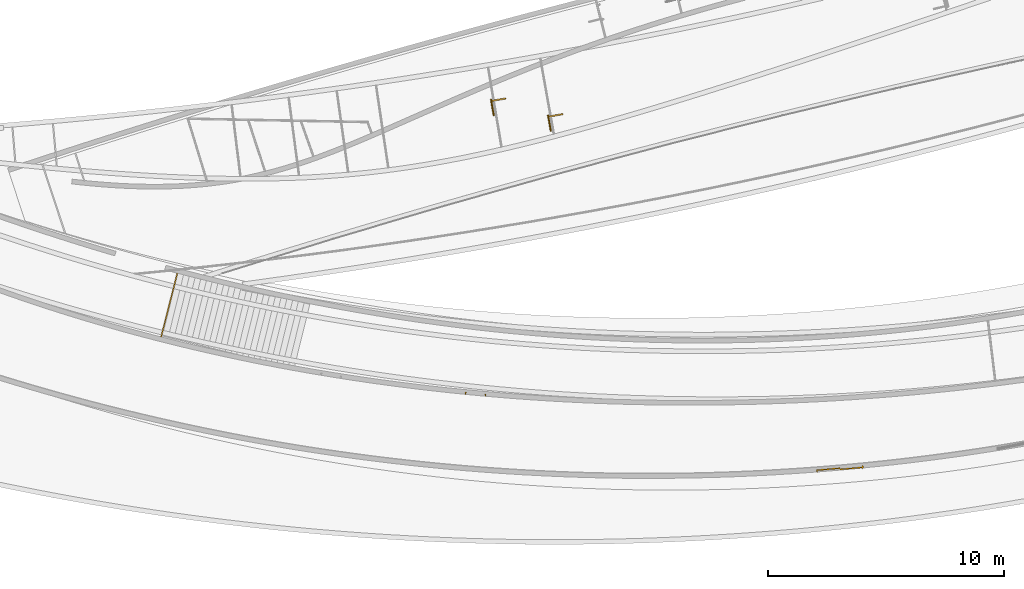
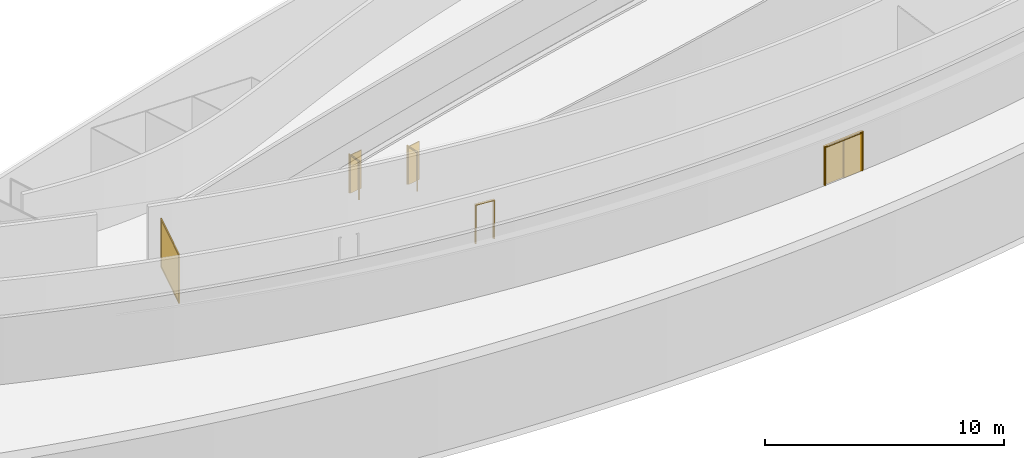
# Not in any storey, part 11 of 16: 4 doors, 1 curtain wall.
"""IFC2X3 model written with IfcOpenShell, lengths in millimetres."""

from ifc_helpers import new_model, entity, si_unit, converted_unit, direction, frame, origin_with_axes, place, context, project, spatial, open_shell, faceted_brep, surface_model, source, transform, mapped, type_object, element, save


model = new_model("IFC2X3")

# Units and contexts
model_context = context("Model", 3, precision=1.0, world=origin_with_axes(), true_north=direction((0.0, 1.0)))
ifc_project = project(units=[converted_unit("PLANEANGLEUNIT", "DEGREE", entity("IfcRatioMeasure", 0.017453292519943), si_unit("PLANEANGLEUNIT", "RADIAN"), dimensions=[0, 0, 0, 0, 0, 0, 0]), si_unit("LENGTHUNIT", "METRE", prefix="MILLI")], contexts=[model_context])

# Site
site_placement = place(None, origin_with_axes())
site = spatial("IfcSite", under=ifc_project, at=site_placement, Name="Site", CompositionType="ELEMENT")

# Door
door_style_1 = type_object("IfcDoorStyle", Name="HOKI entrance", ConstructionType="NOTDEFINED", OperationType="DOUBLE_DOOR_SLIDING", ParameterTakesPrecedence=True, Sizeable=False)
shared_shape_1 = source(origin_with_axes(), model_context, "Body", "Brep", [
    faceted_brep([(-950.0, -50.0, 1950.0), (-950.0, 50.0, 1950.0), (-1.819e-12, 50.0, 1950.0), (950.0, 50.0, 1950.0), (950.0, -50.0, 1950.0), (9.09e-13, -50.0, 1950.0), (950.0, -50.0, -1.819e-12), (1000.0, -50.0, -1.819e-12), (1000.0, -50.0, 1000.0), (1000.0, -50.0, 2000.0), (0.0, -50.0, 2000.0), (-1000.0, -50.0, 2000.0), (-1000.0, -50.0, 1000.0), (-1000.0, -50.0, -1.819e-12), (-950.0, -50.0, -1.819e-12), (-950.0, -50.0, 975.0), (-950.0, -50.0, 1950.0), (9.09e-13, -50.0, 1950.0), (950.0, -50.0, 1950.0), (950.0, -50.0, 975.0), (950.0, -50.0, 1950.0), (950.0, 50.0, 1950.0), (950.0, 50.0, 975.0), (950.0, 50.0, -1.819e-12), (950.0, 2.728e-12, -1.819e-12), (950.0, -50.0, -1.819e-12), (950.0, -50.0, 975.0), (1000.0, 50.0, -1.819e-12), (950.0, 50.0, -1.819e-12), (950.0, 50.0, 975.0), (950.0, 50.0, 1950.0), (-1.819e-12, 50.0, 1950.0), (-950.0, 50.0, 1950.0), (-950.0, 50.0, 975.0), (-950.0, 50.0, -1.819e-12), (-1000.0, 50.0, -1.819e-12), (-1000.0, 50.0, 1000.0), (-1000.0, 50.0, 2000.0), (0.0, 50.0, 2000.0), (1000.0, 50.0, 2000.0), (1000.0, 50.0, 1000.0), (1000.0, -50.0, 1000.0), (1000.0, -50.0, -1.819e-12), (1000.0, 0.0, -1.819e-12), (1000.0, 50.0, -1.819e-12), (1000.0, 50.0, 1000.0), (1000.0, 50.0, 2000.0), (1000.0, -50.0, 2000.0), (1000.0, -50.0, 2000.0), (1000.0, 50.0, 2000.0), (0.0, 50.0, 2000.0), (-1000.0, 50.0, 2000.0), (-1000.0, -50.0, 2000.0), (0.0, -50.0, 2000.0), (-950.0, -50.0, 975.0), (-950.0, -50.0, -1.819e-12), (-950.0, 9.09e-13, -1.819e-12), (-950.0, 50.0, -1.819e-12), (-950.0, 50.0, 975.0), (-950.0, 50.0, 1950.0), (-950.0, -50.0, 1950.0), (-1000.0, -50.0, 2000.0), (-1000.0, 50.0, 2000.0), (-1000.0, 50.0, 1000.0), (-1000.0, 50.0, -1.819e-12), (-1000.0, 1.819e-12, -1.819e-12), (-1000.0, -50.0, -1.819e-12), (-1000.0, -50.0, 1000.0), (-950.0, -50.0, -1.819e-12), (-1000.0, -50.0, -1.819e-12), (-1000.0, 1.819e-12, -1.819e-12), (-1000.0, 50.0, -1.819e-12), (-950.0, 50.0, -1.819e-12), (-950.0, 9.09e-13, -1.819e-12), (1000.0, -50.0, -1.819e-12), (950.0, -50.0, -1.819e-12), (950.0, 2.728e-12, -1.819e-12), (950.0, 50.0, -1.819e-12), (1000.0, 50.0, -1.819e-12), (1000.0, 0.0, -1.819e-12)], [[[0, 1, 2, 3, 4, 5]], [[6, 7, 8, 9, 10, 11, 12, 13, 14, 15, 16, 17, 18, 19]], [[20, 21, 22, 23, 24, 25, 26]], [[27, 28, 29, 30, 31, 32, 33, 34, 35, 36, 37, 38, 39, 40]], [[41, 42, 43, 44, 45, 46, 47]], [[48, 49, 50, 51, 52, 53]], [[54, 55, 56, 57, 58, 59, 60]], [[61, 62, 63, 64, 65, 66, 67]], [[68, 69, 70, 71, 72, 73]], [[74, 75, 76, 77, 78, 79]]]),
    faceted_brep([(-950.0, 1.819e-12, 1950.0), (-950.0, 50.0, 1950.0), (-950.0, 50.0, 975.0), (-950.0, 50.0, -1.819e-12), (-950.0, 1.819e-12, -1.819e-12), (-950.0, 1.819e-12, 975.0), (-950.0, 50.0, 975.0), (-950.0, 50.0, 1950.0), (-475.0, 50.0, 1950.0), (0.0, 50.0, 1950.0), (0.0, 50.0, 975.0), (0.0, 50.0, -1.819e-12), (-475.0, 50.0, -1.819e-12), (-950.0, 50.0, -1.819e-12), (-950.0, 1.819e-12, -1.819e-12), (-950.0, 50.0, -1.819e-12), (-475.0, 50.0, -1.819e-12), (0.0, 50.0, -1.819e-12), (0.0, 0.0, -1.819e-12), (-475.0, 9.09e-13, -1.819e-12), (0.0, 0.0, 975.0), (0.0, 0.0, 1950.0), (-475.0, 9.09e-13, 1950.0), (-950.0, 1.819e-12, 1950.0), (-950.0, 1.819e-12, 975.0), (-950.0, 1.819e-12, -1.819e-12), (-475.0, 9.09e-13, -1.819e-12), (0.0, 0.0, -1.819e-12), (0.0, 0.0, -1.819e-12), (0.0, 50.0, -1.819e-12), (0.0, 50.0, 975.0), (0.0, 50.0, 1950.0), (0.0, 0.0, 1950.0), (0.0, 0.0, 975.0), (0.0, 0.0, 1950.0), (0.0, 50.0, 1950.0), (-475.0, 50.0, 1950.0), (-950.0, 50.0, 1950.0), (-950.0, 1.819e-12, 1950.0), (-475.0, 9.09e-13, 1950.0)], [[[0, 1, 2, 3, 4, 5]], [[6, 7, 8, 9, 10, 11, 12, 13]], [[14, 15, 16, 17, 18, 19]], [[20, 21, 22, 23, 24, 25, 26, 27]], [[28, 29, 30, 31, 32, 33]], [[34, 35, 36, 37, 38, 39]]]),
    faceted_brep([(930.0, -80.0, -1.819e-12), (950.0, -80.0, -1.819e-12), (950.0, -80.0, 975.0), (950.0, -80.0, 1950.0), (0.0, -80.0, 1950.0), (-950.0, -80.0, 1950.0), (-950.0, -80.0, 975.0), (-950.0, -80.0, -1.819e-12), (-930.0, -80.0, -1.819e-12), (-930.0, -80.0, 965.0), (-930.0, -80.0, 1930.0), (0.0, -80.0, 1930.0), (930.0, -80.0, 1930.0), (930.0, -80.0, 965.0), (-930.0, -50.0, -1.819e-12), (-930.0, -50.0, 965.0), (-930.0, -50.0, 1930.0), (-930.0, -80.0, 1930.0), (-930.0, -80.0, 965.0), (-930.0, -80.0, -1.819e-12), (-930.0, -65.0, -1.819e-12), (-950.0, -80.0, 1950.0), (-950.0, -50.0, 1950.0), (-950.0, -50.0, 975.0), (-950.0, -50.0, -1.819e-12), (-950.0, -65.0, -1.819e-12), (-950.0, -80.0, -1.819e-12), (-950.0, -80.0, 975.0), (950.0, -80.0, 1950.0), (950.0, -50.0, 1950.0), (0.0, -50.0, 1950.0), (-950.0, -50.0, 1950.0), (-950.0, -80.0, 1950.0), (0.0, -80.0, 1950.0), (930.0, -80.0, 1930.0), (930.0, -50.0, 1930.0), (930.0, -50.0, 965.0), (930.0, -50.0, -1.819e-12), (930.0, -65.0, -1.819e-12), (930.0, -80.0, -1.819e-12), (930.0, -80.0, 965.0), (-930.0, -80.0, 1930.0), (-930.0, -50.0, 1930.0), (-9.09e-13, -50.0, 1930.0), (930.0, -50.0, 1930.0), (930.0, -80.0, 1930.0), (0.0, -80.0, 1930.0), (-950.0, -50.0, -1.819e-12), (-930.0, -50.0, -1.819e-12), (-930.0, -65.0, -1.819e-12), (-930.0, -80.0, -1.819e-12), (-950.0, -80.0, -1.819e-12), (-950.0, -65.0, -1.819e-12), (950.0, -50.0, -1.819e-12), (930.0, -50.0, -1.819e-12), (930.0, -50.0, 965.0), (930.0, -50.0, 1930.0), (-9.09e-13, -50.0, 1930.0), (-930.0, -50.0, 1930.0), (-930.0, -50.0, 965.0), (-930.0, -50.0, -1.819e-12), (-950.0, -50.0, -1.819e-12), (-950.0, -50.0, 975.0), (-950.0, -50.0, 1950.0), (0.0, -50.0, 1950.0), (950.0, -50.0, 1950.0), (950.0, -50.0, 975.0), (950.0, -50.0, -1.819e-12), (950.0, -50.0, 975.0), (950.0, -50.0, 1950.0), (950.0, -80.0, 1950.0), (950.0, -80.0, 975.0), (950.0, -80.0, -1.819e-12), (950.0, -65.0, -1.819e-12), (930.0, -50.0, -1.819e-12), (950.0, -50.0, -1.819e-12), (950.0, -65.0, -1.819e-12), (950.0, -80.0, -1.819e-12), (930.0, -80.0, -1.819e-12), (930.0, -65.0, -1.819e-12)], [[[0, 1, 2, 3, 4, 5, 6, 7, 8, 9, 10, 11, 12, 13]], [[14, 15, 16, 17, 18, 19, 20]], [[21, 22, 23, 24, 25, 26, 27]], [[28, 29, 30, 31, 32, 33]], [[34, 35, 36, 37, 38, 39, 40]], [[41, 42, 43, 44, 45, 46]], [[47, 48, 49, 50, 51, 52]], [[53, 54, 55, 56, 57, 58, 59, 60, 61, 62, 63, 64, 65, 66]], [[67, 68, 69, 70, 71, 72, 73]], [[74, 75, 76, 77, 78, 79]]]),
    faceted_brep([(950.0, -50.0, 1950.0), (950.0, 1.819e-12, 1950.0), (475.0, 9.09e-13, 1950.0), (0.0, 0.0, 1950.0), (0.0, -50.0, 1950.0), (475.0, -50.0, 1950.0), (950.0, 1.819e-12, 975.0), (950.0, 1.819e-12, -1.819e-12), (475.0, 9.09e-13, -1.819e-12), (0.0, 0.0, -1.819e-12), (0.0, 0.0, 975.0), (0.0, 0.0, 1950.0), (475.0, 9.09e-13, 1950.0), (950.0, 1.819e-12, 1950.0), (0.0, -50.0, 975.0), (0.0, -50.0, -1.819e-12), (475.0, -50.0, -1.819e-12), (950.0, -50.0, -1.819e-12), (950.0, -50.0, 975.0), (950.0, -50.0, 1950.0), (475.0, -50.0, 1950.0), (0.0, -50.0, 1950.0), (0.0, -50.0, 1950.0), (0.0, 0.0, 1950.0), (0.0, 0.0, 975.0), (0.0, 0.0, -1.819e-12), (0.0, -50.0, -1.819e-12), (0.0, -50.0, 975.0), (950.0, -50.0, -1.819e-12), (950.0, 1.819e-12, -1.819e-12), (950.0, 1.819e-12, 975.0), (950.0, 1.819e-12, 1950.0), (950.0, -50.0, 1950.0), (950.0, -50.0, 975.0), (0.0, -50.0, -1.819e-12), (0.0, 0.0, -1.819e-12), (475.0, 9.09e-13, -1.819e-12), (950.0, 1.819e-12, -1.819e-12), (950.0, -50.0, -1.819e-12), (475.0, -50.0, -1.819e-12)], [[[0, 1, 2, 3, 4, 5]], [[6, 7, 8, 9, 10, 11, 12, 13]], [[14, 15, 16, 17, 18, 19, 20, 21]], [[22, 23, 24, 25, 26, 27]], [[28, 29, 30, 31, 32, 33]], [[34, 35, 36, 37, 38, 39]]]),
])
door_1_placement = place(site_placement, frame((-11203.1839670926, -16792.4292847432, 9600.00525845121), z_axis=(0.0, 0.0, 1.0), x_axis=(0.996222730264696, 0.086834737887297, 0.0)))
element("IfcDoor", 1, at=door_1_placement, inside=site, type_object=door_style_1, ObjectType="HOKI entrance", OverallHeight=2000.0, OverallWidth=2000.0, context=model_context, shape_type="MappedRepresentation", body=[
    mapped(shared_shape_1, transform((0.0, 0.0, 0.0))),
])

# Curtain wall
curtain_wall_type = type_object("IfcCurtainWallType", Name="Single Panel", PredefinedType="USERDEFINED")
shared_shape_2 = source(origin_with_axes(), model_context, "Body", "SurfaceModel", [
    surface_model("IfcShellBasedSurfaceModel", [(0.0, 0.0, 2400.0), (0.0, 0.0, 0.0), (2688.4912109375, 0.0, 0.0), (2688.4912109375, 0.0, 2400.0)], [open_shell([[[0, 1, 2, 3]]])]),
])
shared_shape_3 = source(origin_with_axes(), model_context, "Body", "Brep", [
    faceted_brep([(-39287.14453125, -8500.6943359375, 9900.0), (-39335.6015625, -8488.3662109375, 9900.0), (-39347.9296875, -8536.8232421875, 9900.0), (-39679.36328125, -9839.5693359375, 9900.0), (-40010.79296875, -11142.31640625, 9900.0), (-40023.12109375, -11190.7724609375, 9900.0), (-39974.6640625, -11203.1005859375, 9900.0), (-39962.33984375, -11154.6435546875, 9900.0), (-39630.90625, -9851.8974609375, 9900.0), (-39299.47265625, -8549.1513671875, 9900.0), (-39335.6015625, -8488.3662109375, 9900.0), (-39335.6015625, -8488.3662109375, 9850.0), (-39679.36328125, -9839.5693359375, 9850.0), (-40023.12109375, -11190.7724609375, 9850.0), (-40023.12109375, -11190.7724609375, 9900.0), (-40010.79296875, -11142.31640625, 9900.0), (-39679.36328125, -9839.5693359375, 9900.0), (-39347.9296875, -8536.8232421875, 9900.0), (-39335.6015625, -8488.3662109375, 9850.0), (-39287.14453125, -8500.6943359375, 9850.0), (-39630.90625, -9851.8974609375, 9850.0), (-39974.6640625, -11203.1005859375, 9850.0), (-40023.12109375, -11190.7724609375, 9850.0), (-39679.36328125, -9839.5693359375, 9850.0), (-39335.6015625, -8488.3662109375, 9900.0), (-39287.14453125, -8500.6943359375, 9900.0), (-39287.14453125, -8500.6943359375, 9850.0), (-39335.6015625, -8488.3662109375, 9850.0), (-39287.14453125, -8500.6943359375, 9850.0), (-39287.14453125, -8500.6943359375, 9900.0), (-39299.47265625, -8549.1513671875, 9900.0), (-39630.90625, -9851.8974609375, 9900.0), (-39962.33984375, -11154.6435546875, 9900.0), (-39974.6640625, -11203.1005859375, 9900.0), (-39974.6640625, -11203.1005859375, 9850.0), (-39630.90625, -9851.8974609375, 9850.0), (-39974.6640625, -11203.1005859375, 9900.0), (-40023.12109375, -11190.7724609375, 9900.0), (-40023.12109375, -11190.7724609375, 9850.0), (-39974.6640625, -11203.1005859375, 9850.0)], [[[0, 1, 2, 3, 4, 5, 6, 7, 8, 9]], [[10, 11, 12, 13, 14, 15, 16, 17]], [[18, 19, 20, 21, 22, 23]], [[24, 25, 26, 27]], [[28, 29, 30, 31, 32, 33, 34, 35]], [[36, 37, 38, 39]]]),
    faceted_brep([(-40010.79296875, -11142.31640625, 9900.0), (-40016.95703125, -11166.5439453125, 9900.0), (-40023.12109375, -11190.7724609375, 9900.0), (-40023.12109375, -11190.7724609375, 11100.0), (-40023.12109375, -11190.7724609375, 12300.0), (-40016.95703125, -11166.5439453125, 12300.0), (-40010.79296875, -11142.31640625, 12300.0), (-40010.79296875, -11142.31640625, 11100.0), (-40023.12109375, -11190.7724609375, 9900.0), (-39974.6640625, -11203.1005859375, 9900.0), (-39974.6640625, -11203.1005859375, 11100.0), (-39974.6640625, -11203.1005859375, 12300.0), (-40023.12109375, -11190.7724609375, 12300.0), (-40023.12109375, -11190.7724609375, 11100.0), (-39974.6640625, -11203.1005859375, 9900.0), (-39968.50390625, -11178.8720703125, 9900.0), (-39962.33984375, -11154.6435546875, 9900.0), (-39962.33984375, -11154.6435546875, 11100.0), (-39962.33984375, -11154.6435546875, 12300.0), (-39968.50390625, -11178.8720703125, 12300.0), (-39974.6640625, -11203.1005859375, 12300.0), (-39974.6640625, -11203.1005859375, 11100.0), (-39962.33984375, -11154.6435546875, 9900.0), (-40010.79296875, -11142.31640625, 9900.0), (-40010.79296875, -11142.31640625, 11100.0), (-40010.79296875, -11142.31640625, 12300.0), (-39962.33984375, -11154.6435546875, 12300.0), (-39962.33984375, -11154.6435546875, 11100.0), (-40010.79296875, -11142.31640625, 9900.0), (-39962.33984375, -11154.6435546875, 9900.0), (-39968.50390625, -11178.8720703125, 9900.0), (-39974.6640625, -11203.1005859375, 9900.0), (-40023.12109375, -11190.7724609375, 9900.0), (-40016.95703125, -11166.5439453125, 9900.0), (-39962.33984375, -11154.6435546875, 12300.0), (-40010.79296875, -11142.31640625, 12300.0), (-40016.95703125, -11166.5439453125, 12300.0), (-40023.12109375, -11190.7724609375, 12300.0), (-39974.6640625, -11203.1005859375, 12300.0), (-39968.50390625, -11178.8720703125, 12300.0)], [[[0, 1, 2, 3, 4, 5, 6, 7]], [[8, 9, 10, 11, 12, 13]], [[14, 15, 16, 17, 18, 19, 20, 21]], [[22, 23, 24, 25, 26, 27]], [[28, 29, 30, 31, 32, 33]], [[34, 35, 36, 37, 38, 39]]]),
    faceted_brep([(-39335.6015625, -8488.3662109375, 9900.0), (-39341.765625, -8512.5947265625, 9900.0), (-39347.9296875, -8536.8232421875, 9900.0), (-39347.9296875, -8536.8232421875, 11100.0), (-39347.9296875, -8536.8232421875, 12300.0), (-39341.765625, -8512.5947265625, 12300.0), (-39335.6015625, -8488.3662109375, 12300.0), (-39335.6015625, -8488.3662109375, 11100.0), (-39299.47265625, -8549.1513671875, 9900.0), (-39293.30859375, -8524.9228515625, 9900.0), (-39287.14453125, -8500.6943359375, 9900.0), (-39287.14453125, -8500.6943359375, 11100.0), (-39287.14453125, -8500.6943359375, 12300.0), (-39293.30859375, -8524.9228515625, 12300.0), (-39299.47265625, -8549.1513671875, 12300.0), (-39299.47265625, -8549.1513671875, 11100.0), (-39347.9296875, -8536.8232421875, 12300.0), (-39299.47265625, -8549.1513671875, 12300.0), (-39293.30859375, -8524.9228515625, 12300.0), (-39287.14453125, -8500.6943359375, 12300.0), (-39335.6015625, -8488.3662109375, 12300.0), (-39341.765625, -8512.5947265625, 12300.0), (-39347.9296875, -8536.8232421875, 9900.0), (-39299.47265625, -8549.1513671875, 9900.0), (-39299.47265625, -8549.1513671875, 11100.0), (-39299.47265625, -8549.1513671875, 12300.0), (-39347.9296875, -8536.8232421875, 12300.0), (-39347.9296875, -8536.8232421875, 11100.0), (-39287.14453125, -8500.6943359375, 9900.0), (-39335.6015625, -8488.3662109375, 9900.0), (-39335.6015625, -8488.3662109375, 11100.0), (-39335.6015625, -8488.3662109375, 12300.0), (-39287.14453125, -8500.6943359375, 12300.0), (-39287.14453125, -8500.6943359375, 11100.0), (-39299.47265625, -8549.1513671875, 9900.0), (-39347.9296875, -8536.8232421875, 9900.0), (-39341.765625, -8512.5947265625, 9900.0), (-39335.6015625, -8488.3662109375, 9900.0), (-39287.14453125, -8500.6943359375, 9900.0), (-39293.30859375, -8524.9228515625, 9900.0)], [[[0, 1, 2, 3, 4, 5, 6, 7]], [[8, 9, 10, 11, 12, 13, 14, 15]], [[16, 17, 18, 19, 20, 21]], [[22, 23, 24, 25, 26, 27]], [[28, 29, 30, 31, 32, 33]], [[34, 35, 36, 37, 38, 39]]]),
    faceted_brep([(-39287.14453125, -8500.6943359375, 12300.0), (-39335.6015625, -8488.3662109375, 12300.0), (-39335.6015625, -8488.3662109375, 12350.0), (-39287.14453125, -8500.6943359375, 12350.0), (-39335.6015625, -8488.3662109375, 12300.0), (-39287.14453125, -8500.6943359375, 12300.0), (-39299.47265625, -8549.1513671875, 12300.0), (-39630.90625, -9851.8974609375, 12300.0), (-39962.33984375, -11154.6435546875, 12300.0), (-39974.6640625, -11203.1005859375, 12300.0), (-40023.12109375, -11190.7724609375, 12300.0), (-40010.79296875, -11142.31640625, 12300.0), (-39679.36328125, -9839.5693359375, 12300.0), (-39347.9296875, -8536.8232421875, 12300.0), (-39287.14453125, -8500.6943359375, 12300.0), (-39287.14453125, -8500.6943359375, 12350.0), (-39630.90625, -9851.8974609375, 12350.0), (-39974.6640625, -11203.1005859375, 12350.0), (-39974.6640625, -11203.1005859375, 12300.0), (-39962.33984375, -11154.6435546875, 12300.0), (-39630.90625, -9851.8974609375, 12300.0), (-39299.47265625, -8549.1513671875, 12300.0), (-39335.6015625, -8488.3662109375, 12350.0), (-39335.6015625, -8488.3662109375, 12300.0), (-39347.9296875, -8536.8232421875, 12300.0), (-39679.36328125, -9839.5693359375, 12300.0), (-40010.79296875, -11142.31640625, 12300.0), (-40023.12109375, -11190.7724609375, 12300.0), (-40023.12109375, -11190.7724609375, 12350.0), (-39679.36328125, -9839.5693359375, 12350.0), (-39287.14453125, -8500.6943359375, 12350.0), (-39335.6015625, -8488.3662109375, 12350.0), (-39679.36328125, -9839.5693359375, 12350.0), (-40023.12109375, -11190.7724609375, 12350.0), (-39974.6640625, -11203.1005859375, 12350.0), (-39630.90625, -9851.8974609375, 12350.0), (-40023.12109375, -11190.7724609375, 12300.0), (-39974.6640625, -11203.1005859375, 12300.0), (-39974.6640625, -11203.1005859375, 12350.0), (-40023.12109375, -11190.7724609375, 12350.0)], [[[0, 1, 2, 3]], [[4, 5, 6, 7, 8, 9, 10, 11, 12, 13]], [[14, 15, 16, 17, 18, 19, 20, 21]], [[22, 23, 24, 25, 26, 27, 28, 29]], [[30, 31, 32, 33, 34, 35]], [[36, 37, 38, 39]]]),
])
shared_shape_4 = source(origin_with_axes(), model_context, "Body", "MappedRepresentation", [
    mapped(shared_shape_2, transform((-39323.7009618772, -8542.98698521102, 9900.0), x_axis=(-0.246556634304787, -0.969128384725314, 0.0), y_axis=(0.969128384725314, -0.246556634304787, 0.0), scale=1.0)),
    mapped(shared_shape_3, transform((0.0, 0.0, 0.0))),
])
curtain_wall_placement = place(site_placement, origin_with_axes())
element("IfcCurtainWall", 2, at=curtain_wall_placement, inside=site, type_object=curtain_wall_type, ObjectType="Single Panel", context=model_context, shape_type="MappedRepresentation", body=[
    mapped(shared_shape_4, transform((0.0, 0.0, 0.0))),
])

# Doors
door_style_2 = type_object("IfcDoorStyle", Name="Hinged", ConstructionType="NOTDEFINED", OperationType="SINGLE_SWING_RIGHT", ParameterTakesPrecedence=True, Sizeable=False)
shared_shape_5 = source(origin_with_axes(), model_context, "Body", "Brep", [
    faceted_brep([(350.0, -25.0, 0.0), (350.0, -25.0, 1000.0), (350.0, -25.0, 2000.0), (-4.55e-13, -25.0, 2000.0), (-350.0, -25.0, 2000.0), (-350.0, -25.0, 1000.0), (-350.0, -25.0, 0.0), (-325.0, -25.0, 0.0), (-300.0, -25.0, 0.0), (-300.0, -25.0, 975.0), (-300.0, -25.0, 1950.0), (0.0, -25.0, 1950.0), (300.0, -25.0, 1950.0), (300.0, -25.0, 975.0), (300.0, -25.0, 0.0), (325.0, -25.0, 0.0), (-325.0, -25.0, 0.0), (-350.0, -25.0, 0.0), (-350.0, 1.819e-12, 0.0), (-350.0, 25.0, 0.0), (-325.0, 25.0, 0.0), (-300.0, 25.0, 0.0), (-300.0, 1.819e-12, 0.0), (-300.0, -25.0, 0.0), (350.0, -25.0, 2000.0), (350.0, 25.0, 2000.0), (0.0, 25.0, 2000.0), (-350.0, 25.0, 2000.0), (-350.0, -25.0, 2000.0), (-4.55e-13, -25.0, 2000.0), (-300.0, -25.0, 1950.0), (-300.0, 25.0, 1950.0), (-4.55e-13, 25.0, 1950.0), (300.0, 25.0, 1950.0), (300.0, -25.0, 1950.0), (0.0, -25.0, 1950.0), (300.0, -25.0, 1950.0), (300.0, 25.0, 1950.0), (300.0, 25.0, 975.0), (300.0, 25.0, 0.0), (300.0, 1.819e-12, 0.0), (300.0, -25.0, 0.0), (300.0, -25.0, 975.0), (-300.0, -25.0, 975.0), (-300.0, -25.0, 0.0), (-300.0, 1.819e-12, 0.0), (-300.0, 25.0, 0.0), (-300.0, 25.0, 975.0), (-300.0, 25.0, 1950.0), (-300.0, -25.0, 1950.0), (-350.0, -25.0, 2000.0), (-350.0, 25.0, 2000.0), (-350.0, 25.0, 1000.0), (-350.0, 25.0, 0.0), (-350.0, 1.819e-12, 0.0), (-350.0, -25.0, 0.0), (-350.0, -25.0, 1000.0), (350.0, -25.0, 1000.0), (350.0, -25.0, 0.0), (350.0, 0.0, 0.0), (350.0, 25.0, 0.0), (350.0, 25.0, 1000.0), (350.0, 25.0, 2000.0), (350.0, -25.0, 2000.0), (350.0, 25.0, 1000.0), (350.0, 25.0, 0.0), (325.0, 25.0, 0.0), (300.0, 25.0, 0.0), (300.0, 25.0, 975.0), (300.0, 25.0, 1950.0), (-4.55e-13, 25.0, 1950.0), (-300.0, 25.0, 1950.0), (-300.0, 25.0, 975.0), (-300.0, 25.0, 0.0), (-325.0, 25.0, 0.0), (-350.0, 25.0, 0.0), (-350.0, 25.0, 1000.0), (-350.0, 25.0, 2000.0), (0.0, 25.0, 2000.0), (350.0, 25.0, 2000.0), (325.0, -25.0, 0.0), (300.0, -25.0, 0.0), (300.0, 1.819e-12, 0.0), (300.0, 25.0, 0.0), (325.0, 25.0, 0.0), (350.0, 25.0, 0.0), (350.0, 0.0, 0.0), (350.0, -25.0, 0.0)], [[[0, 1, 2, 3, 4, 5, 6, 7, 8, 9, 10, 11, 12, 13, 14, 15]], [[16, 17, 18, 19, 20, 21, 22, 23]], [[24, 25, 26, 27, 28, 29]], [[30, 31, 32, 33, 34, 35]], [[36, 37, 38, 39, 40, 41, 42]], [[43, 44, 45, 46, 47, 48, 49]], [[50, 51, 52, 53, 54, 55, 56]], [[57, 58, 59, 60, 61, 62, 63]], [[64, 65, 66, 67, 68, 69, 70, 71, 72, 73, 74, 75, 76, 77, 78, 79]], [[80, 81, 82, 83, 84, 85, 86, 87]]]),
    faceted_brep([(-260.0, 25.0, 1950.0), (-300.0, 25.0, 1950.0), (-300.0, 25.0, 975.0), (-300.0, 25.0, 0.0), (-260.0, 25.0, 0.0), (-260.0, 25.0, 975.0), (-260.0, 25.0, 0.0), (-300.0, 25.0, 0.0), (-300.0, 325.0, 0.0), (-300.0, 625.0, 0.0), (-260.0, 625.0, 0.0), (-260.0, 325.0, 0.0), (-260.0, 625.0, 0.0), (-300.0, 625.0, 0.0), (-300.0, 625.0, 975.0), (-300.0, 625.0, 1950.0), (-260.0, 625.0, 1950.0), (-260.0, 625.0, 975.0), (-260.0, 625.0, 1950.0), (-300.0, 625.0, 1950.0), (-300.0, 325.0, 1950.0), (-300.0, 25.0, 1950.0), (-260.0, 25.0, 1950.0), (-260.0, 325.0, 1950.0), (-260.0, 625.0, 975.0), (-260.0, 625.0, 1950.0), (-260.0, 325.0, 1950.0), (-260.0, 25.0, 1950.0), (-260.0, 25.0, 975.0), (-260.0, 25.0, 0.0), (-260.0, 325.0, 0.0), (-260.0, 625.0, 0.0), (-300.0, 625.0, 0.0), (-300.0, 325.0, 0.0), (-300.0, 25.0, 0.0), (-300.0, 25.0, 975.0), (-300.0, 25.0, 1950.0), (-300.0, 325.0, 1950.0), (-300.0, 625.0, 1950.0), (-300.0, 625.0, 975.0)], [[[0, 1, 2, 3, 4, 5]], [[6, 7, 8, 9, 10, 11]], [[12, 13, 14, 15, 16, 17]], [[18, 19, 20, 21, 22, 23]], [[24, 25, 26, 27, 28, 29, 30, 31]], [[32, 33, 34, 35, 36, 37, 38, 39]]]),
])
door_2_placement = place(site_placement, frame((-25943.8664810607, -1462.15387170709, 4500.0), z_axis=(0.0, 0.0, 1.0), x_axis=(0.166578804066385, -0.986028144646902, 0.0)))
element("IfcDoor", 3, at=door_2_placement, inside=site, type_object=door_style_2, ObjectType="Hinged", OverallHeight=2000.0, OverallWidth=700.0, context=model_context, shape_type="MappedRepresentation", body=[
    mapped(shared_shape_5, transform((0.0, 0.0, 0.0))),
])
shared_shape_6 = source(origin_with_axes(), model_context, "Body", "Brep", [
    faceted_brep([(300.0, -25.0, 1950.0), (300.0, 25.0, 1950.0), (300.0, 25.0, 975.0), (300.0, 25.0, 0.0), (300.0, 3.638e-12, 0.0), (300.0, -25.0, 0.0), (300.0, -25.0, 975.0), (350.0, -25.0, 0.0), (350.0, -25.0, 1000.0), (350.0, -25.0, 2000.0), (4.55e-13, -25.0, 2000.0), (-350.0, -25.0, 2000.0), (-350.0, -25.0, 1000.0), (-350.0, -25.0, 0.0), (-325.0, -25.0, 0.0), (-300.0, -25.0, 0.0), (-300.0, -25.0, 975.0), (-300.0, -25.0, 1950.0), (6.82e-13, -25.0, 1950.0), (300.0, -25.0, 1950.0), (300.0, -25.0, 975.0), (300.0, -25.0, 0.0), (325.0, -25.0, 0.0), (350.0, -25.0, 2000.0), (350.0, 25.0, 2000.0), (2.27e-13, 25.0, 2000.0), (-350.0, 25.0, 2000.0), (-350.0, -25.0, 2000.0), (4.55e-13, -25.0, 2000.0), (-325.0, -25.0, 0.0), (-350.0, -25.0, 0.0), (-350.0, 5.457e-12, 0.0), (-350.0, 25.0, 0.0), (-325.0, 25.0, 0.0), (-300.0, 25.0, 0.0), (-300.0, 3.638e-12, 0.0), (-300.0, -25.0, 0.0), (-350.0, -25.0, 2000.0), (-350.0, 25.0, 2000.0), (-350.0, 25.0, 1000.0), (-350.0, 25.0, 0.0), (-350.0, 5.457e-12, 0.0), (-350.0, -25.0, 0.0), (-350.0, -25.0, 1000.0), (350.0, -25.0, 1000.0), (350.0, -25.0, 0.0), (350.0, 1.819e-12, 0.0), (350.0, 25.0, 0.0), (350.0, 25.0, 1000.0), (350.0, 25.0, 2000.0), (350.0, -25.0, 2000.0), (325.0, -25.0, 0.0), (300.0, -25.0, 0.0), (300.0, 3.638e-12, 0.0), (300.0, 25.0, 0.0), (325.0, 25.0, 0.0), (350.0, 25.0, 0.0), (350.0, 1.819e-12, 0.0), (350.0, -25.0, 0.0), (350.0, 25.0, 1000.0), (350.0, 25.0, 0.0), (325.0, 25.0, 0.0), (300.0, 25.0, 0.0), (300.0, 25.0, 975.0), (300.0, 25.0, 1950.0), (4.55e-13, 25.0, 1950.0), (-300.0, 25.0, 1950.0), (-300.0, 25.0, 975.0), (-300.0, 25.0, 0.0), (-325.0, 25.0, 0.0), (-350.0, 25.0, 0.0), (-350.0, 25.0, 1000.0), (-350.0, 25.0, 2000.0), (2.27e-13, 25.0, 2000.0), (350.0, 25.0, 2000.0), (-300.0, -25.0, 975.0), (-300.0, -25.0, 0.0), (-300.0, 3.638e-12, 0.0), (-300.0, 25.0, 0.0), (-300.0, 25.0, 975.0), (-300.0, 25.0, 1950.0), (-300.0, -25.0, 1950.0), (-300.0, -25.0, 1950.0), (-300.0, 25.0, 1950.0), (4.55e-13, 25.0, 1950.0), (300.0, 25.0, 1950.0), (300.0, -25.0, 1950.0), (6.82e-13, -25.0, 1950.0)], [[[0, 1, 2, 3, 4, 5, 6]], [[7, 8, 9, 10, 11, 12, 13, 14, 15, 16, 17, 18, 19, 20, 21, 22]], [[23, 24, 25, 26, 27, 28]], [[29, 30, 31, 32, 33, 34, 35, 36]], [[37, 38, 39, 40, 41, 42, 43]], [[44, 45, 46, 47, 48, 49, 50]], [[51, 52, 53, 54, 55, 56, 57, 58]], [[59, 60, 61, 62, 63, 64, 65, 66, 67, 68, 69, 70, 71, 72, 73, 74]], [[75, 76, 77, 78, 79, 80, 81]], [[82, 83, 84, 85, 86, 87]]]),
    faceted_brep([(-260.0, 625.0, 1950.0), (-300.0, 625.0, 1950.0), (-300.0, 325.0, 1950.0), (-300.0, 25.0, 1950.0), (-260.0, 25.0, 1950.0), (-260.0, 325.0, 1950.0), (-260.0, 25.0, 1950.0), (-300.0, 25.0, 1950.0), (-300.0, 25.0, 975.0), (-300.0, 25.0, 0.0), (-260.0, 25.0, 0.0), (-260.0, 25.0, 975.0), (-260.0, 25.0, 0.0), (-300.0, 25.0, 0.0), (-300.0, 325.0, 0.0), (-300.0, 625.0, 0.0), (-260.0, 625.0, 0.0), (-260.0, 325.0, 0.0), (-260.0, 625.0, 975.0), (-260.0, 625.0, 1950.0), (-260.0, 325.0, 1950.0), (-260.0, 25.0, 1950.0), (-260.0, 25.0, 975.0), (-260.0, 25.0, 0.0), (-260.0, 325.0, 0.0), (-260.0, 625.0, 0.0), (-300.0, 625.0, 0.0), (-300.0, 325.0, 0.0), (-300.0, 25.0, 0.0), (-300.0, 25.0, 975.0), (-300.0, 25.0, 1950.0), (-300.0, 325.0, 1950.0), (-300.0, 625.0, 1950.0), (-300.0, 625.0, 975.0), (-260.0, 625.0, 0.0), (-300.0, 625.0, 0.0), (-300.0, 625.0, 975.0), (-300.0, 625.0, 1950.0), (-260.0, 625.0, 1950.0), (-260.0, 625.0, 975.0)], [[[0, 1, 2, 3, 4, 5]], [[6, 7, 8, 9, 10, 11]], [[12, 13, 14, 15, 16, 17]], [[18, 19, 20, 21, 22, 23, 24, 25]], [[26, 27, 28, 29, 30, 31, 32, 33]], [[34, 35, 36, 37, 38, 39]]]),
])
door_3_placement = place(site_placement, frame((-23524.5058255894, -2129.34780059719, 4500.0), z_axis=(0.0, 0.0, 1.0), x_axis=(0.175862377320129, -0.984414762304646, 0.0)))
element("IfcDoor", 4, at=door_3_placement, inside=site, type_object=door_style_2, ObjectType="Hinged", OverallHeight=2000.0, OverallWidth=700.0, context=model_context, shape_type="MappedRepresentation", body=[
    mapped(shared_shape_6, transform((0.0, 0.0, 0.0))),
])
door_style_3 = type_object("IfcDoorStyle", Name="HOKI", ConstructionType="NOTDEFINED", OperationType="NOTDEFINED", ParameterTakesPrecedence=True, Sizeable=False)
shared_shape_7 = source(origin_with_axes(), model_context, "Body", "Brep", [
    faceted_brep([(400.0, 50.0, 0.0), (380.0, 50.0, 0.0), (380.0, 50.0, 965.0), (380.0, 50.0, 1930.0), (3.638e-12, 50.0, 1930.0), (-380.0, 50.0, 1930.0), (-380.0, 50.0, 965.0), (-380.0, 50.0, 0.0), (-400.0, 50.0, 0.0), (-400.0, 50.0, 975.0), (-400.0, 50.0, 1950.0), (3.638e-12, 50.0, 1950.0), (400.0, 50.0, 1950.0), (400.0, 50.0, 975.0), (380.0, 20.0, 1930.0), (380.0, 50.0, 1930.0), (380.0, 50.0, 965.0), (380.0, 50.0, 0.0), (380.0, 35.0, 0.0), (380.0, 20.0, 0.0), (380.0, 20.0, 965.0), (-380.0, 20.0, 1930.0), (-380.0, 50.0, 1930.0), (3.638e-12, 50.0, 1930.0), (380.0, 50.0, 1930.0), (380.0, 20.0, 1930.0), (3.638e-12, 20.0, 1930.0), (-400.0, 50.0, 0.0), (-380.0, 50.0, 0.0), (-380.0, 35.0, 0.0), (-380.0, 20.0, 0.0), (-400.0, 20.0, 0.0), (-400.0, 35.0, 0.0), (-380.0, 50.0, 0.0), (-380.0, 50.0, 965.0), (-380.0, 50.0, 1930.0), (-380.0, 20.0, 1930.0), (-380.0, 20.0, 965.0), (-380.0, 20.0, 0.0), (-380.0, 35.0, 0.0), (-400.0, 20.0, 1950.0), (-400.0, 50.0, 1950.0), (-400.0, 50.0, 975.0), (-400.0, 50.0, 0.0), (-400.0, 35.0, 0.0), (-400.0, 20.0, 0.0), (-400.0, 20.0, 975.0), (400.0, 20.0, 1950.0), (400.0, 50.0, 1950.0), (3.638e-12, 50.0, 1950.0), (-400.0, 50.0, 1950.0), (-400.0, 20.0, 1950.0), (3.638e-12, 20.0, 1950.0), (400.0, 50.0, 0.0), (400.0, 50.0, 975.0), (400.0, 50.0, 1950.0), (400.0, 20.0, 1950.0), (400.0, 20.0, 975.0), (400.0, 20.0, 0.0), (400.0, 35.0, 0.0), (380.0, 50.0, 0.0), (400.0, 50.0, 0.0), (400.0, 35.0, 0.0), (400.0, 20.0, 0.0), (380.0, 20.0, 0.0), (380.0, 35.0, 0.0), (380.0, 20.0, 0.0), (400.0, 20.0, 0.0), (400.0, 20.0, 975.0), (400.0, 20.0, 1950.0), (3.638e-12, 20.0, 1950.0), (-400.0, 20.0, 1950.0), (-400.0, 20.0, 975.0), (-400.0, 20.0, 0.0), (-380.0, 20.0, 0.0), (-380.0, 20.0, 965.0), (-380.0, 20.0, 1930.0), (3.638e-12, 20.0, 1930.0), (380.0, 20.0, 1930.0), (380.0, 20.0, 965.0)], [[[0, 1, 2, 3, 4, 5, 6, 7, 8, 9, 10, 11, 12, 13]], [[14, 15, 16, 17, 18, 19, 20]], [[21, 22, 23, 24, 25, 26]], [[27, 28, 29, 30, 31, 32]], [[33, 34, 35, 36, 37, 38, 39]], [[40, 41, 42, 43, 44, 45, 46]], [[47, 48, 49, 50, 51, 52]], [[53, 54, 55, 56, 57, 58, 59]], [[60, 61, 62, 63, 64, 65]], [[66, 67, 68, 69, 70, 71, 72, 73, 74, 75, 76, 77, 78, 79]]]),
    faceted_brep([(400.0, -50.0, 0.0), (450.0, -50.0, 0.0), (450.0, -50.0, 1000.0), (450.0, -50.0, 2000.0), (1.819e-12, -50.0, 2000.0), (-450.0, -50.0, 2000.0), (-450.0, -50.0, 1000.0), (-450.0, -50.0, 0.0), (-400.0, -50.0, 0.0), (-400.0, -50.0, 975.0), (-400.0, -50.0, 1950.0), (1.819e-12, -50.0, 1950.0), (400.0, -50.0, 1950.0), (400.0, -50.0, 975.0), (-400.0, -50.0, 1950.0), (-400.0, 50.0, 1950.0), (3.638e-12, 50.0, 1950.0), (400.0, 50.0, 1950.0), (400.0, -50.0, 1950.0), (1.819e-12, -50.0, 1950.0), (-400.0, -50.0, 975.0), (-400.0, -50.0, 0.0), (-400.0, 9.09e-13, 0.0), (-400.0, 50.0, 0.0), (-400.0, 50.0, 975.0), (-400.0, 50.0, 1950.0), (-400.0, -50.0, 1950.0), (400.0, -50.0, 1950.0), (400.0, 50.0, 1950.0), (400.0, 50.0, 975.0), (400.0, 50.0, 0.0), (400.0, -9.09e-13, 0.0), (400.0, -50.0, 0.0), (400.0, -50.0, 975.0), (450.0, -50.0, 2000.0), (450.0, 50.0, 2000.0), (0.0, 50.0, 2000.0), (-450.0, 50.0, 2000.0), (-450.0, -50.0, 2000.0), (1.819e-12, -50.0, 2000.0), (450.0, -50.0, 1000.0), (450.0, -50.0, 0.0), (450.0, 0.0, 0.0), (450.0, 50.0, 0.0), (450.0, 50.0, 1000.0), (450.0, 50.0, 2000.0), (450.0, -50.0, 2000.0), (-400.0, -50.0, 0.0), (-450.0, -50.0, 0.0), (-450.0, -9.09e-13, 0.0), (-450.0, 50.0, 0.0), (-400.0, 50.0, 0.0), (-400.0, 9.09e-13, 0.0), (-450.0, -50.0, 2000.0), (-450.0, 50.0, 2000.0), (-450.0, 50.0, 1000.0), (-450.0, 50.0, 0.0), (-450.0, -9.09e-13, 0.0), (-450.0, -50.0, 0.0), (-450.0, -50.0, 1000.0), (450.0, 50.0, 0.0), (400.0, 50.0, 0.0), (400.0, 50.0, 975.0), (400.0, 50.0, 1950.0), (3.638e-12, 50.0, 1950.0), (-400.0, 50.0, 1950.0), (-400.0, 50.0, 975.0), (-400.0, 50.0, 0.0), (-450.0, 50.0, 0.0), (-450.0, 50.0, 1000.0), (-450.0, 50.0, 2000.0), (0.0, 50.0, 2000.0), (450.0, 50.0, 2000.0), (450.0, 50.0, 1000.0), (450.0, -50.0, 0.0), (400.0, -50.0, 0.0), (400.0, -9.09e-13, 0.0), (400.0, 50.0, 0.0), (450.0, 50.0, 0.0), (450.0, 0.0, 0.0)], [[[0, 1, 2, 3, 4, 5, 6, 7, 8, 9, 10, 11, 12, 13]], [[14, 15, 16, 17, 18, 19]], [[20, 21, 22, 23, 24, 25, 26]], [[27, 28, 29, 30, 31, 32, 33]], [[34, 35, 36, 37, 38, 39]], [[40, 41, 42, 43, 44, 45, 46]], [[47, 48, 49, 50, 51, 52]], [[53, 54, 55, 56, 57, 58, 59]], [[60, 61, 62, 63, 64, 65, 66, 67, 68, 69, 70, 71, 72, 73]], [[74, 75, 76, 77, 78, 79]]]),
])
door_4_placement = place(site_placement, frame((-26661.4325671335, -13623.2140151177, 9849.99645367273), z_axis=(0.0, 0.0, 1.0), x_axis=(0.995653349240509, -0.093136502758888, 0.0)))
element("IfcDoor", 5, at=door_4_placement, inside=site, type_object=door_style_3, ObjectType="HOKI", OverallHeight=2000.0, OverallWidth=900.0, context=model_context, shape_type="MappedRepresentation", body=[
    mapped(shared_shape_7, transform((0.0, 0.0, 0.0))),
])

save(model, "model.ifc")
